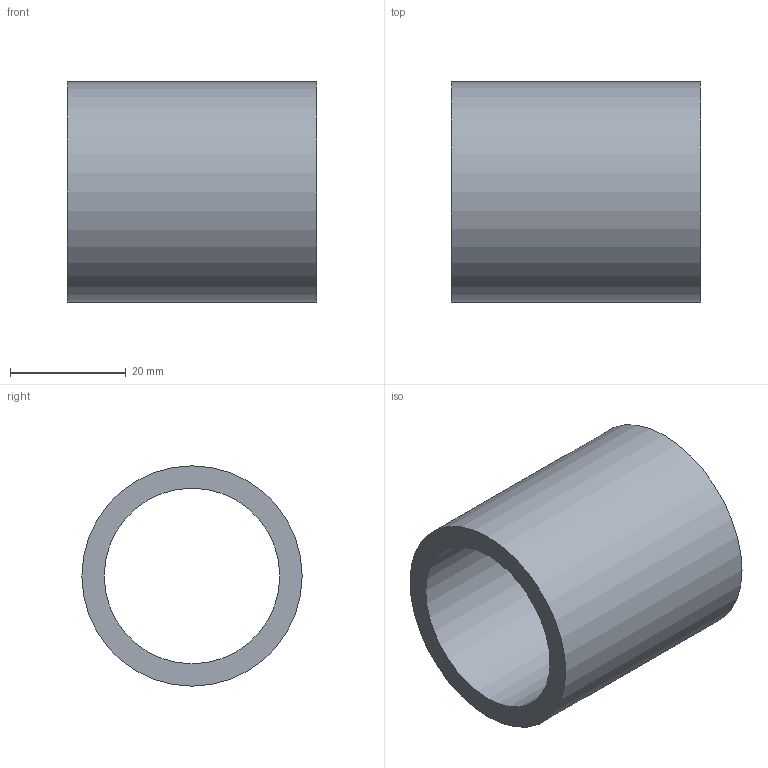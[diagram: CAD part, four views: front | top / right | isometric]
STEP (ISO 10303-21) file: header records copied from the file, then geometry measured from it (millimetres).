
FILE_DESCRIPTION(/* description */ ('ＳＵＳ３０４'),/* implementation_level */ '2;1');
FILE_NAME(/* name */ 'C:\Users\Fujimoto-s\OneDrive\Inventor\WorkSpace\\X2\305D306E4ED6\X0\\ホームページ用\\X2\30C030A630F330ED30FC30C97D206750\X0\\ねじ込み継手\S-25A-1\S-25A-1.stp',/* time_stamp */ '2024-08-08T10:30:36+09:00',/* author */ ('Fujimoto-s'),/* organization */ (''),/* preprocessor_version */ 'ST-DEVELOPER v15.2',/* originating_system */ 'Autodesk Inventor 2014',/* authorisation */ '');
FILE_SCHEMA (('AUTOMOTIVE_DESIGN { 1 0 10303 214 3 1 1 }'));
Length unit declared in the file: millimetre
Products named in the file (1): S-25A-1
Bounding box: 43 x 38 x 38 mm (x, y, z)
Volume: 17779.5 mm3; surface area: 10052.3 mm2
Topology: 1 solids, 1 shells, 4 faces, 7 edges, 5 vertices
Faces by surface type: cylinder 2, plane 2
Full cylindrical faces by diameter (mm): 30.291 x1, 38 x1
Entity records: 112 total; most frequent: DIRECTION 18, CARTESIAN_POINT 13, AXIS2_PLACEMENT_3D 9, EDGE_LOOP 8, ORIENTED_EDGE 8, FACE_BOUND 6, CIRCLE 4, VERTEX_POINT 4
